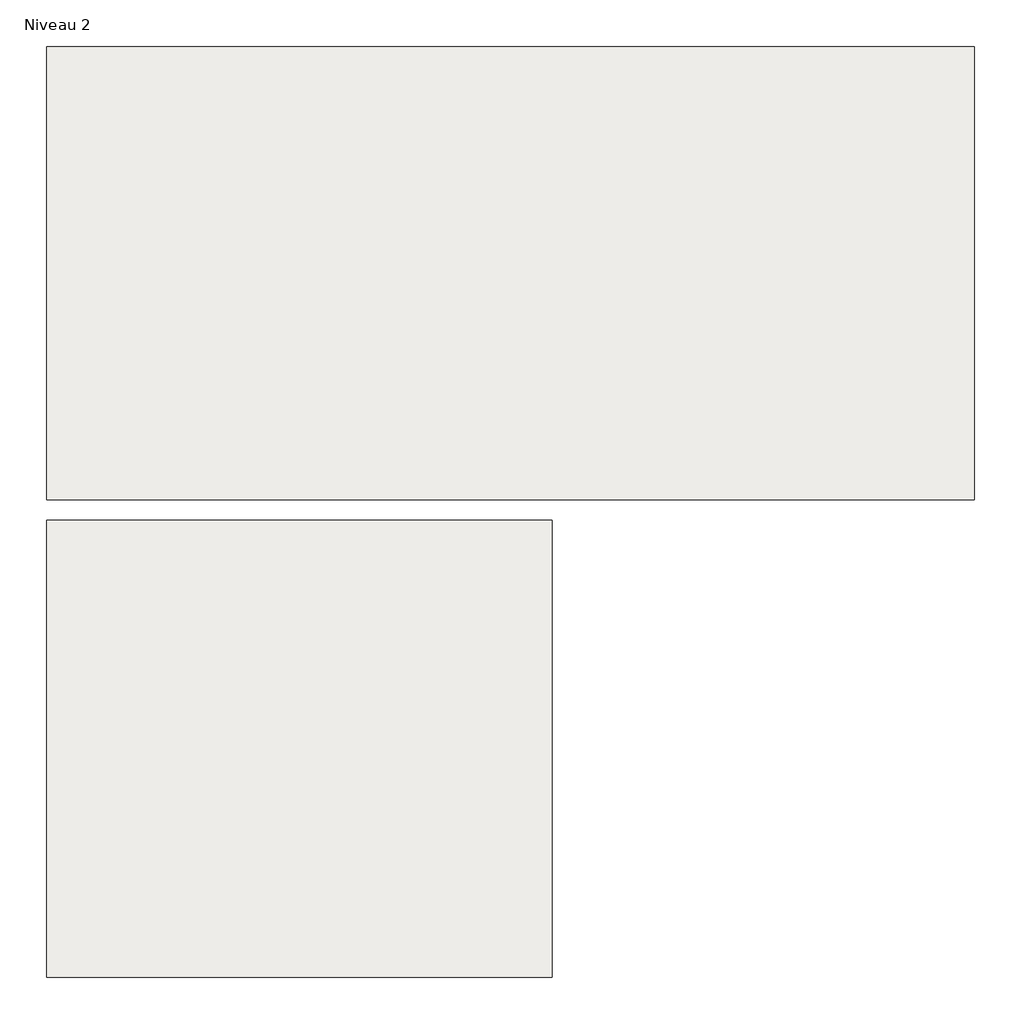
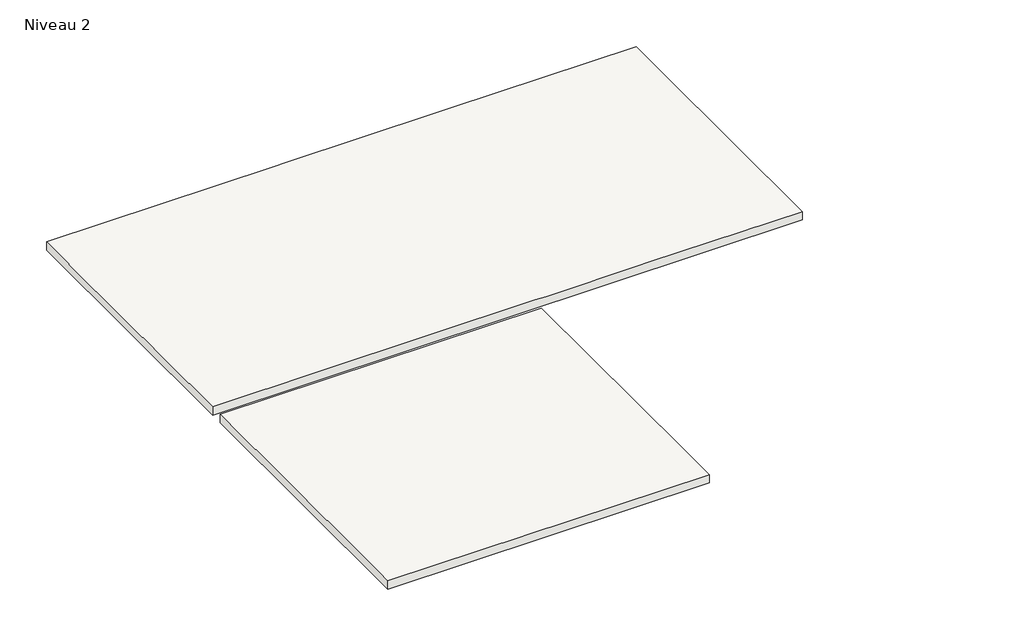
# One storey: 1 slab.
"""IFC4 building model written with IfcOpenShell, lengths in millimetres."""

from ifc_helpers import new_model, si_unit, origin, place, context, project, spatial, faceted_brep, element, save

model = new_model("IFC4")

# Units and contexts
model_context = context("Model", 3, world=origin())
ifc_project = project(units=[si_unit("LENGTHUNIT", "METRE", prefix="MILLI")], contexts=[model_context])

# Site, building, storey
site = spatial("IfcSite", under=ifc_project)
building = spatial("IfcBuilding", under=site)
storey = spatial("IfcBuildingStorey", under=building, Name="Niveau 2", Elevation=5090.0)

# Slab
placement = place(None, origin())
element("IfcSlab", 1, ObjectType="PH R+1", at=placement, inside=storey, context=model_context, shape_type="Brep", body=[
    faceted_brep([(3231.3643329, 2117.8797898, 4990.0), (3231.3643329, -1152.1202102, 4990.0), (-3468.6356671, -1152.1202102, 4990.0), (-3468.6356671, 2117.8797898, 4990.0), (3231.3643329, 2117.8797898, 5090.0), (1111.3643329, 2117.8797898, 5090.0), (961.3643329, 2117.8797898, 5090.0), (-738.6356671, 2117.8797898, 5090.0), (-888.6356671, 2117.8797898, 5090.0), (-3468.6356671, 2117.8797898, 5090.0), (-3468.6356671, 1747.8797898, 5090.0), (-3468.6356671, 1597.8797898, 5090.0), (-3468.6356671, -1152.1202102, 5090.0), (181.3643329, -1152.1202102, 5090.0), (331.3643329, -1152.1202102, 5090.0), (1351.3643329, -1152.1202102, 5090.0), (1501.3643329, -1152.1202102, 5090.0), (3231.3643329, -1152.1202102, 5090.0), (3231.3643329, 1597.8797898, 5090.0), (3231.3643329, 1747.8797898, 5090.0)], [[[0, 1, 2, 3]], [[4, 5, 6, 7, 8, 9, 10, 11, 12, 13, 14, 15, 16, 17, 18, 19]], [[1, 0, 4, 19, 18, 17]], [[2, 1, 17, 16, 15, 14, 13, 12]], [[3, 2, 12, 11, 10, 9]], [[0, 3, 9, 8, 7, 6, 5, 4]]]),
    faceted_brep([(181.3643329, -1302.1202102, 4990.0), (181.3643329, -4602.1202102, 4990.0), (-3468.6356671, -4602.1202102, 4990.0), (-3468.6356671, -1302.1202102, 4990.0), (181.3643329, -1302.1202102, 5090.0), (-3468.6356671, -1302.1202102, 5090.0), (-3468.6356671, -4102.1202102, 5090.0), (-3468.6356671, -4252.1202102, 5090.0), (-3468.6356671, -4602.1202102, 5090.0), (181.3643329, -4602.1202102, 5090.0), (181.3643329, -4252.1202102, 5090.0), (181.3643329, -4102.1202102, 5090.0)], [[[0, 1, 2, 3]], [[4, 5, 6, 7, 8, 9, 10, 11]], [[1, 0, 4, 11, 10, 9]], [[2, 1, 9, 8]], [[3, 2, 8, 7, 6, 5]], [[0, 3, 5, 4]]]),
])

save(model, "model.ifc")
